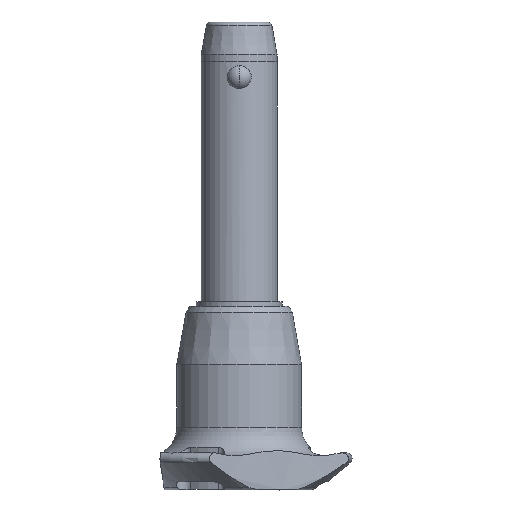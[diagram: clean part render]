
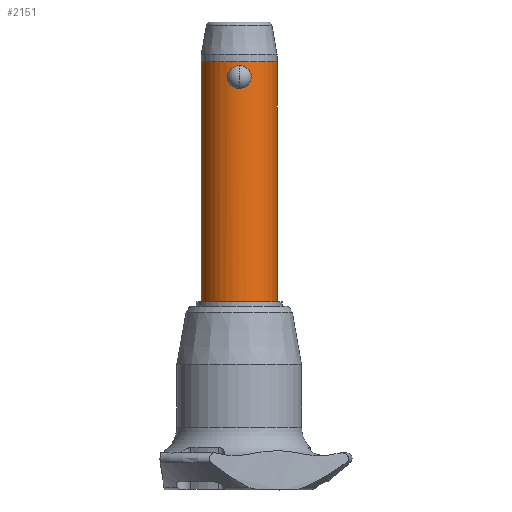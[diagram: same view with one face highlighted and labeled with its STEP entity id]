
A CAD part, front view. The second image highlights one B-rep face of the part: STEP entity #2151.
In plain terms, the highlighted cylindrical face has radius 8 mm (diameter 16 mm), a partial arc.
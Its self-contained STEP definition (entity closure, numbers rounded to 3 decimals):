
#6 = CARTESIAN_POINT ( 'NONE',  ( -0.803, -7.961, 4.661 ) ) ;
#44 = AXIS2_PLACEMENT_3D ( 'NONE', #2463, #2238, #821 ) ;
#69 = CARTESIAN_POINT ( 'NONE',  ( -2.276, -7.67, 3.482 ) ) ;
#70 = CARTESIAN_POINT ( 'NONE',  ( 1.529, -7.854, 4.312 ) ) ;
#84 = CARTESIAN_POINT ( 'NONE',  ( 0.804, -7.961, 4.661 ) ) ;
#114 = CARTESIAN_POINT ( 'NONE',  ( 0., -8., 0. ) ) ;
#133 = EDGE_CURVE ( 'NONE', #2442, #2872, #2388, .T. ) ;
#174 = VERTEX_POINT ( 'NONE', #1699 ) ;
#206 = CARTESIAN_POINT ( 'NONE',  ( -8., 0., 5.6 ) ) ;
#234 = AXIS2_PLACEMENT_3D ( 'NONE', #2277, #1360, #470 ) ;
#248 = CARTESIAN_POINT ( 'NONE',  ( -1.252, -7.903, 4.479 ) ) ;
#300 = CARTESIAN_POINT ( 'NONE',  ( 2.41, -7.629, 3.184 ) ) ;
#314 = CARTESIAN_POINT ( 'NONE',  ( 2.275, -7.67, 1.291 ) ) ;
#328 = CARTESIAN_POINT ( 'NONE',  ( 1.657, -7.827, 0.558 ) ) ;
#353 = CARTESIAN_POINT ( 'NONE',  ( -2.411, -7.628, 1.592 ) ) ;
#395 = EDGE_CURVE ( 'NONE', #2839, #1257, #2675, .T. ) ;
#455 = EDGE_CURVE ( 'NONE', #1257, #2864, #2798, .T. ) ;
#470 = DIRECTION ( 'NONE',  ( 1., 0., 0. ) ) ;
#520 = CARTESIAN_POINT ( 'NONE',  ( 2.194, -7.694, 1.153 ) ) ;
#532 = CARTESIAN_POINT ( 'NONE',  ( -2.546, -7.584, 2.553 ) ) ;
#533 = CARTESIAN_POINT ( 'NONE',  ( 1.105, -7.925, 0.226 ) ) ;
#556 = LINE ( 'NONE', #1957, #796 ) ;
#585 = DIRECTION ( 'NONE',  ( 1., 0., 0. ) ) ;
#707 = ORIENTED_EDGE ( 'NONE', *, *, #2309, .F. ) ;
#747 = CARTESIAN_POINT ( 'NONE',  ( -0.324, -8., 0. ) ) ;
#749 = CARTESIAN_POINT ( 'NONE',  ( 2.211, -7.69, 3.626 ) ) ;
#789 = CARTESIAN_POINT ( 'NONE',  ( -1.896, -7.773, 4.001 ) ) ;
#796 = VECTOR ( 'NONE', #2126, 1000. ) ;
#821 = DIRECTION ( 'NONE',  ( 1., 0., 0. ) ) ;
#850 = EDGE_LOOP ( 'NONE', ( #2687, #707 ) ) ;
#944 = CARTESIAN_POINT ( 'NONE',  ( 0., -8., 4.775 ) ) ;
#972 = CARTESIAN_POINT ( 'NONE',  ( 2.529, -7.59, 2.71 ) ) ;
#986 = CARTESIAN_POINT ( 'NONE',  ( 0.652, -7.979, 0.058 ) ) ;
#1156 = CARTESIAN_POINT ( 'NONE',  ( 0., -8., 4.775 ) ) ;
#1200 = CARTESIAN_POINT ( 'NONE',  ( 1.66, -7.827, 4.215 ) ) ;
#1213 = CARTESIAN_POINT ( 'NONE',  ( 2.546, -7.584, 2.22 ) ) ;
#1226 = CARTESIAN_POINT ( 'NONE',  ( -1.659, -7.827, 0.559 ) ) ;
#1228 = CARTESIAN_POINT ( 'NONE',  ( 2.004, -7.746, 0.894 ) ) ;
#1236 = EDGE_LOOP ( 'NONE', ( #2027, #1747, #2394, #2748 ) ) ;
#1251 = CARTESIAN_POINT ( 'NONE',  ( -1.106, -7.925, 0.226 ) ) ;
#1257 = VERTEX_POINT ( 'NONE', #206 ) ;
#1304 = CYLINDRICAL_SURFACE ( 'NONE', #44, 8. ) ;
#1340 = CARTESIAN_POINT ( 'NONE',  ( 0.326, -7.995, 4.761 ) ) ;
#1360 = DIRECTION ( 'NONE',  ( 0., 0., 1. ) ) ;
#1371 = CARTESIAN_POINT ( 'NONE',  ( 0., -8., 4.775 ) ) ;
#1386 = EDGE_CURVE ( 'NONE', #174, #2864, #556, .T. ) ;
#1422 = CARTESIAN_POINT ( 'NONE',  ( 2.408, -7.629, 1.586 ) ) ;
#1435 = CARTESIAN_POINT ( 'NONE',  ( 1.894, -7.773, 0.773 ) ) ;
#1446 = CARTESIAN_POINT ( 'NONE',  ( -2.459, -7.613, 3.036 ) ) ;
#1447 = CARTESIAN_POINT ( 'NONE',  ( 1.252, -7.903, 0.296 ) ) ;
#1462 = CARTESIAN_POINT ( 'NONE',  ( -2.547, -7.584, 2.229 ) ) ;
#1476 = CARTESIAN_POINT ( 'NONE',  ( -2.003, -7.746, 3.882 ) ) ;
#1543 = FACE_OUTER_BOUND ( 'NONE', #1236, .T. ) ;
#1597 = CARTESIAN_POINT ( 'NONE',  ( 0.164, -8., 4.775 ) ) ;
#1647 = CARTESIAN_POINT ( 'NONE',  ( 8., 0., 5.6 ) ) ;
#1660 = CARTESIAN_POINT ( 'NONE',  ( 2.016, -7.746, 3.891 ) ) ;
#1672 = CARTESIAN_POINT ( 'NONE',  ( 0.324, -8., 0. ) ) ;
#1699 = CARTESIAN_POINT ( 'NONE',  ( 8., 0., -45. ) ) ;
#1747 = ORIENTED_EDGE ( 'NONE', *, *, #1972, .F. ) ;
#1831 = CARTESIAN_POINT ( 'NONE',  ( -1.527, -7.854, 4.313 ) ) ;
#1847 = CIRCLE ( 'NONE', #2524, 8. ) ;
#1880 = CARTESIAN_POINT ( 'NONE',  ( -1.254, -7.902, 0.297 ) ) ;
#1881 = CARTESIAN_POINT ( 'NONE',  ( 2.46, -7.613, 1.742 ) ) ;
#1909 = CARTESIAN_POINT ( 'NONE',  ( -2.193, -7.694, 3.623 ) ) ;
#1938 = CARTESIAN_POINT ( 'NONE',  ( -1.53, -7.854, 0.464 ) ) ;
#1943 = DIRECTION ( 'NONE',  ( 0., 0., -1. ) ) ;
#1957 = CARTESIAN_POINT ( 'NONE',  ( 8., 0., -45. ) ) ;
#1972 = EDGE_CURVE ( 'NONE', #174, #2839, #1847, .T. ) ;
#2027 = ORIENTED_EDGE ( 'NONE', *, *, #395, .F. ) ;
#2063 = CARTESIAN_POINT ( 'NONE',  ( -1.658, -7.827, 4.216 ) ) ;
#2071 = CARTESIAN_POINT ( 'NONE',  ( 0.645, -7.976, 4.704 ) ) ;
#2112 = CARTESIAN_POINT ( 'NONE',  ( 1.108, -7.924, 4.548 ) ) ;
#2123 = CARTESIAN_POINT ( 'NONE',  ( -2.016, -7.746, 0.883 ) ) ;
#2124 = CARTESIAN_POINT ( 'NONE',  ( 2.547, -7.584, 2.549 ) ) ;
#2126 = DIRECTION ( 'NONE',  ( 0., 0., 1. ) ) ;
#2137 = CARTESIAN_POINT ( 'NONE',  ( -2.408, -7.629, 3.189 ) ) ;
#2150 = CARTESIAN_POINT ( 'NONE',  ( -2.211, -7.69, 1.148 ) ) ;
#2151 = ADVANCED_FACE ( 'NONE', ( #1543, #2875 ), #1304, .T. ) ;
#2165 = CARTESIAN_POINT ( 'NONE',  ( -0.652, -7.979, 0.058 ) ) ;
#2219 = DIRECTION ( 'NONE',  ( 0., 0., 1. ) ) ;
#2238 = DIRECTION ( 'NONE',  ( 0., 0., 1. ) ) ;
#2274 = CARTESIAN_POINT ( 'NONE',  ( -0.645, -7.976, 4.704 ) ) ;
#2277 = CARTESIAN_POINT ( 'NONE',  ( 0., 0., 5.6 ) ) ;
#2289 = CARTESIAN_POINT ( 'NONE',  ( -1.107, -7.924, 4.548 ) ) ;
#2309 = EDGE_CURVE ( 'NONE', #2872, #2442, #2630, .T. ) ;
#2342 = CARTESIAN_POINT ( 'NONE',  ( 2.528, -7.59, 2.058 ) ) ;
#2368 = CARTESIAN_POINT ( 'NONE',  ( 1.529, -7.854, 0.463 ) ) ;
#2388 = B_SPLINE_CURVE_WITH_KNOTS ( 'NONE', 3,
 ( #1371, #2787, #2498, #2274, #6, #2289, #248, #1831, #2063, #789, #1476, #1909, #69, #2137, #1446, #2831, #532, #1462, #2399, #2578, #353, #2150, #2123, #1226, #1938, #1880, #1251, #2165, #747, #114 ),
 .UNSPECIFIED., .F., .F.,
 ( 4, 2, 2, 2, 2, 2, 2, 2, 2, 2, 2, 2, 2, 2, 4 ),
 ( 0., 0., 0.001, 0.001, 0.002, 0.002, 0.003, 0.003, 0.004, 0.004, 0.005, 0.006, 0.006, 0.007, 0.008 ),
 .UNSPECIFIED. ) ;
#2394 = ORIENTED_EDGE ( 'NONE', *, *, #1386, .T. ) ;
#2399 = CARTESIAN_POINT ( 'NONE',  ( -2.529, -7.59, 2.064 ) ) ;
#2442 = VERTEX_POINT ( 'NONE', #944 ) ;
#2463 = CARTESIAN_POINT ( 'NONE',  ( 0., 0., -45. ) ) ;
#2498 = CARTESIAN_POINT ( 'NONE',  ( -0.326, -7.995, 4.761 ) ) ;
#2502 = CARTESIAN_POINT ( 'NONE',  ( -8., 0., -45. ) ) ;
#2524 = AXIS2_PLACEMENT_3D ( 'NONE', #2581, #1943, #585 ) ;
#2532 = CARTESIAN_POINT ( 'NONE',  ( 0., -8., 0. ) ) ;
#2578 = CARTESIAN_POINT ( 'NONE',  ( -2.461, -7.612, 1.746 ) ) ;
#2580 = CARTESIAN_POINT ( 'NONE',  ( 1.253, -7.903, 4.478 ) ) ;
#2581 = CARTESIAN_POINT ( 'NONE',  ( 0., 0., -45. ) ) ;
#2590 = CARTESIAN_POINT ( 'NONE',  ( 0., -8., 0. ) ) ;
#2630 = B_SPLINE_CURVE_WITH_KNOTS ( 'NONE', 3,
 ( #2590, #1672, #986, #533, #1447, #2368, #328, #1435, #1228, #520, #314, #1422, #1881, #2342, #1213, #2124, #972, #2804, #300, #749, #1660, #1200, #70, #2580, #2112, #84, #2071, #1340, #1597, #1156 ),
 .UNSPECIFIED., .F., .F.,
 ( 4, 2, 2, 2, 2, 2, 2, 2, 2, 2, 2, 2, 2, 2, 4 ),
 ( 0.008, 0.009, 0.009, 0.01, 0.01, 0.011, 0.011, 0.012, 0.012, 0.013, 0.014, 0.014, 0.015, 0.015, 0.016 ),
 .UNSPECIFIED. ) ;
#2675 = LINE ( 'NONE', #2862, #2950 ) ;
#2687 = ORIENTED_EDGE ( 'NONE', *, *, #133, .F. ) ;
#2748 = ORIENTED_EDGE ( 'NONE', *, *, #455, .F. ) ;
#2787 = CARTESIAN_POINT ( 'NONE',  ( -0.164, -8., 4.775 ) ) ;
#2798 = CIRCLE ( 'NONE', #234, 8. ) ;
#2804 = CARTESIAN_POINT ( 'NONE',  ( 2.461, -7.612, 3.027 ) ) ;
#2831 = CARTESIAN_POINT ( 'NONE',  ( -2.529, -7.59, 2.716 ) ) ;
#2839 = VERTEX_POINT ( 'NONE', #2502 ) ;
#2862 = CARTESIAN_POINT ( 'NONE',  ( -8., 0., -45. ) ) ;
#2864 = VERTEX_POINT ( 'NONE', #1647 ) ;
#2872 = VERTEX_POINT ( 'NONE', #2532 ) ;
#2875 = FACE_BOUND ( 'NONE', #850, .T. ) ;
#2950 = VECTOR ( 'NONE', #2219, 1000. ) ;
